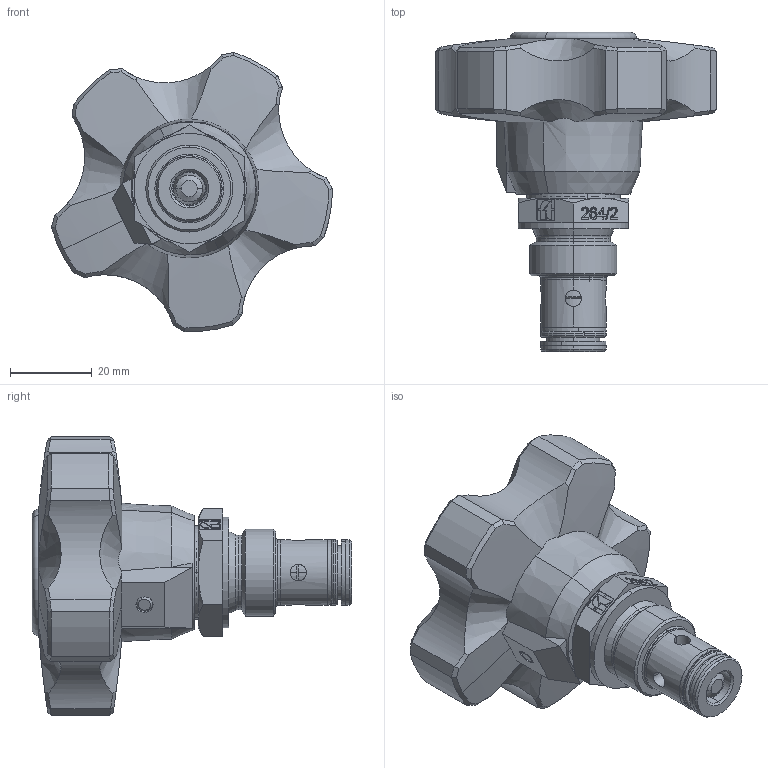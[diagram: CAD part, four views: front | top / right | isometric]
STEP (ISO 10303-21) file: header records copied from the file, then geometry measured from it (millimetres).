
FILE_DESCRIPTION (( 'STEP AP214' ), '1' );
FILE_NAME ('264-2-38volantino.STEP', '2014-11-11T21:10:49', ( '' ), ( '' ), 'SwSTEP 2.0', 'SolidWorks 2014', '' );
FILE_SCHEMA (( 'AUTOMOTIVE_DESIGN' ));
Length unit declared in the file: millimetre
Products named in the file (1): 264-2-38volantino
Bounding box: 68.67 x 78 x 68.25 mm (x, y, z)
Volume: 76859 mm3; surface area: 28535.5 mm2
Topology: 10 solids, 10 shells, 705 faces, 1781 edges, 1141 vertices
Faces by surface type: plane 327, cylinder 133, cone 109, bspline 98, torus 30, sphere 8
Entity records: 34282 total; most frequent: CARTESIAN_POINT 10175, ORIENTED_EDGE 3558, DIRECTION 3034, EDGE_CURVE 1779, VERTEX_POINT 1141, AXIS2_PLACEMENT_3D 1054, LINE 926, VECTOR 926
